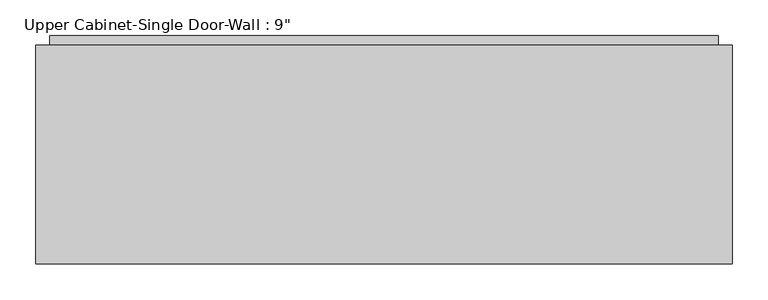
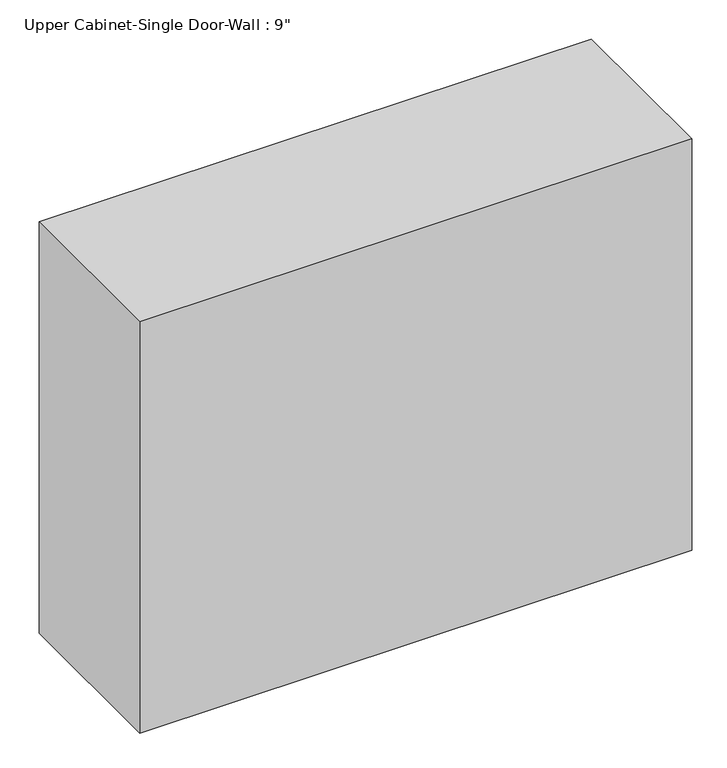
"""IFC4 building model written with IfcOpenShell, lengths in millimetres: furniture geometry."""

from ifc_helpers import new_model, si_unit, frame, origin, place, context, project, spatial, polyline, outline, extrude, faceted_brep, source, transform, mapped, element, save


def furniture_e27291b7(model_context):
    return source(origin(), model_context, "Body", "SolidModel", [
        faceted_brep([(-709.5157333, 57.15, 2133.6), (-709.5157333, 57.15, 1371.6), (258.3711628, 57.15, 1371.6), (258.3711628, 57.15, 2133.6), (-709.5157333, 361.95, 2133.6), (258.3711628, 361.95, 2133.6), (258.3711628, 361.95, 1371.6), (-709.5157333, 361.95, 1371.6), (-690.4657333, 361.95, 2114.55), (-690.4657333, 361.95, 1390.65), (239.3211628, 361.95, 1390.65), (239.3211628, 361.95, 2114.55), (239.3211628, 76.2, 2114.55), (-690.4657333, 76.2, 2114.55), (239.3211628, 76.2, 1390.65), (-690.4657333, 76.2, 1390.65)], [[[0, 1, 2, 3]], [[4, 5, 6, 7], [8, 9, 10, 11]], [[1, 0, 4, 7]], [[2, 1, 7, 6]], [[3, 2, 6, 5]], [[0, 3, 5, 4]], [[8, 11, 12, 13]], [[11, 10, 14, 12]], [[10, 9, 15, 14]], [[9, 8, 13, 15]], [[13, 12, 14, 15]]]),
        extrude(outline(polyline([(-690.4657333, 374.65), (239.3211628, 374.65), (239.3211628, 342.9), (-690.4657333, 342.9), (-690.4657333, 374.65)])), frame((0.0, 0.0, 1390.65), z_axis=(0.0, 0.0, 1.0), x_axis=(1.0, 0.0, 0.0)), (0.0, 0.0, 1.0), 723.9),
    ])


if __name__ == "__main__":
    model = new_model("IFC4")
    model_context = context("Model", 3, world=origin())
    ifc_project = project(units=[si_unit("LENGTHUNIT", "METRE", prefix="MILLI")], contexts=[model_context])
    site = spatial("IfcSite", under=ifc_project)
    building = spatial("IfcBuilding", under=site)
    placement = place(None, origin())
    furniture_shape = furniture_e27291b7(model_context)
    element("IfcFurniture", 1, ObjectType="Upper Cabinet-Single Door-Wall : 9\"", at=placement, inside=building, context=model_context, shape_type="MappedRepresentation", body=[
        mapped(furniture_shape, transform((0.0, 0.0, 0.0), x_axis=(1.0, 0.0, 0.0), y_axis=(0.0, 1.0, 0.0), z_axis=(0.0, 0.0, 1.0))),
    ])
    save(model, "model.ifc")
